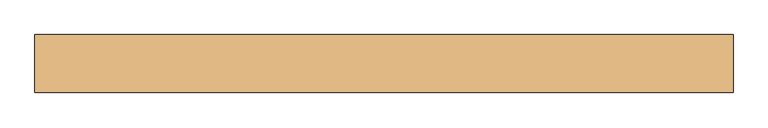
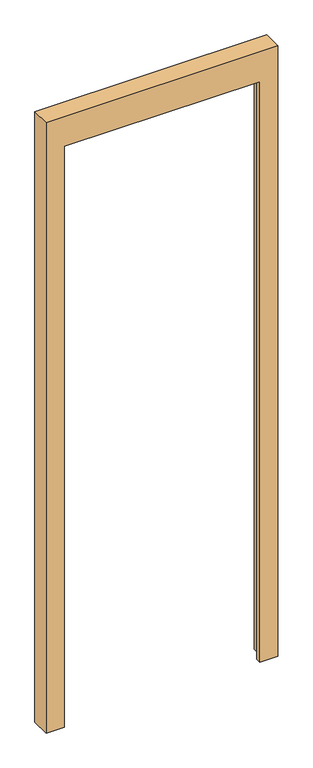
"""IFC4 building model written with IfcOpenShell, lengths in millimetres: door geometry, DOOR_PANEL-N-PTH : 94-PTHC55."""

from ifc_helpers import new_model, si_unit, origin, place, context, project, spatial, faceted_brep, source, transform, mapped, element, save


def door_bbba8e17(model_context):
    return source(origin(), model_context, "Body", "Brep", [
        faceted_brep([(-499.6, 41.5, 0.0), (-444.6, 41.5, 0.0), (-444.6, -18.0, 0.0), (-422.1, -18.0, 0.0), (-422.1, -41.5, 0.0), (-499.6, -41.5, 0.0), (499.6, -41.5, 0.0), (422.1, -41.5, 0.0), (422.1, -18.0, 0.0), (444.6, -18.0, 0.0), (444.6, 41.5, 0.0), (499.6, 41.5, 0.0), (-499.6, 41.5, 2780.0), (-499.6, -41.5, 2780.0), (-422.1, -41.5, 2645.0), (422.1, -41.5, 2645.0), (499.6, -41.5, 2780.0), (-422.1, -18.0, 2645.0), (444.6, -18.0, 2725.0), (422.1, -18.0, 2645.0), (-444.6, -18.0, 2725.0), (-444.6, 41.5, 2725.0), (499.6, 41.5, 2780.0), (444.6, 41.5, 2725.0)], [[[0, 1, 2, 3, 4, 5]], [[6, 7, 8, 9, 10, 11]], [[12, 0, 5, 13]], [[13, 5, 4, 14, 15, 7, 6, 16]], [[14, 4, 3, 17]], [[18, 9, 8, 19, 17, 3, 2, 20]], [[20, 2, 1, 21]], [[22, 11, 10, 23, 21, 1, 0, 12]], [[16, 6, 11, 22]], [[23, 10, 9, 18]], [[19, 8, 7, 15]], [[22, 12, 13, 16]], [[15, 14, 17, 19]], [[21, 23, 18, 20]]]),
    ])


if __name__ == "__main__":
    model = new_model("IFC4")
    model_context = context("Model", 3, world=origin())
    ifc_project = project(units=[si_unit("LENGTHUNIT", "METRE", prefix="MILLI")], contexts=[model_context])
    site = spatial("IfcSite", under=ifc_project)
    building = spatial("IfcBuilding", under=site)
    placement = place(None, origin())
    door_shape = door_bbba8e17(model_context)
    element("IfcDoor", 1, ObjectType="DOOR_PANEL-N-PTH : 94-PTHC55", at=placement, inside=building, context=model_context, shape_type="MappedRepresentation", body=[
        mapped(door_shape, transform((0.0, 0.0, 0.0), x_axis=(1.0, 0.0, 0.0), y_axis=(0.0, 1.0, 0.0), z_axis=(0.0, 0.0, 1.0))),
    ])
    save(model, "model.ifc")
